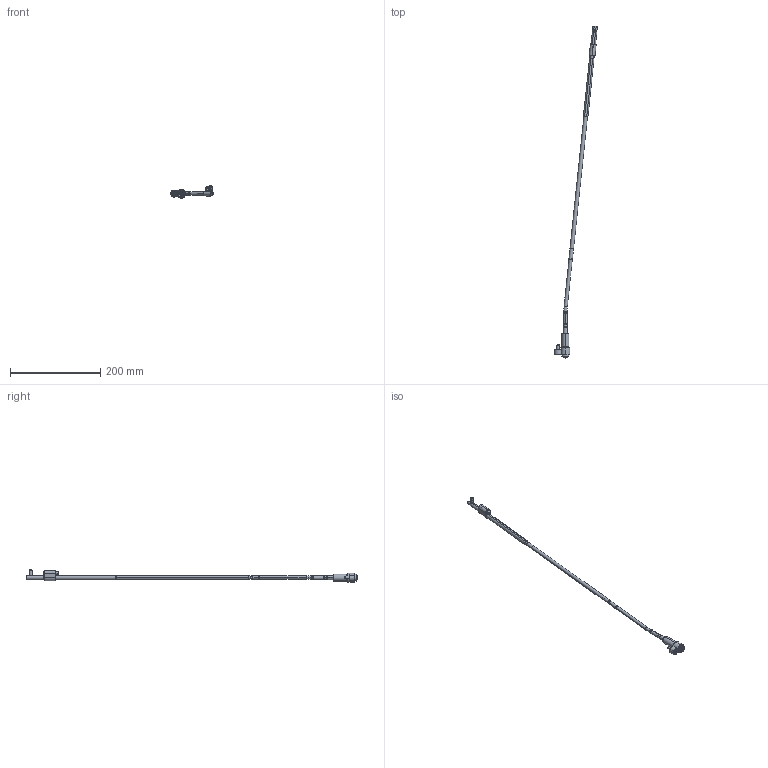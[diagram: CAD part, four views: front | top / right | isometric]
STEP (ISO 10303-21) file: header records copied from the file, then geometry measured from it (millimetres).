
FILE_DESCRIPTION (( 'STEP AP214' ), '1' );
FILE_NAME ('WL080100L-EJE 6°.STEP', '2021-03-19T15:25:31', ( '' ), ( '' ), 'SwSTEP 2.0', 'SolidWorks 2019', '' );
FILE_SCHEMA (( 'AUTOMOTIVE_DESIGN' ));
Length unit declared in the file: millimetre
Products named in the file (17): 1DIN912545_DIN 912 M5 x 50 --- 50C; WL080100-B_WL0800FF; Web-WL08XX-A7_ON-WL080100-6; Web-WL08-F01; WL080100L-EJE 6°; WL080100-C; Web-WL08-F00.SLDPRT; 9DR2206-TOR; Web-WL08-A3; Web-WL08-A2; Web-WL08-A1; WL080100-B1_WL0800FF-1; 3IMAN4X2-150_con sello; 1DIN912616_DIN 912 M6 x 16 --- 16C; Web-WP08-1; WL080100-D; WL080100-E
Assembly tree (16 placements, depth 3):
  WL080100L-EJE 6°
    Web-WP08-1
    Web-WL08XX-A7_ON-WL080100-6
    Web-WL08-A3
    Web-WL08-A2
    Web-WL08-A1
    WL080100-D
    WL080100-C
    WL080100-B_WL0800FF
      WL080100-B1_WL0800FF-1
      3IMAN4X2-150_con sello
    WL080100-E
    9DR2206-TOR
    Web-WL08-F00.SLDPRT
      Web-WL08-F01
      1DIN912545_DIN 912 M5 x 50 --- 50C
      1DIN912616_DIN 912 M6 x 16 --- 16C
Bounding box: 94.57 x 734.05 x 26.9 mm (x, y, z)
Volume: 57313.3 mm3; surface area: 33635.9 mm2
Topology: 15 solids, 15 shells, 424 faces, 888 edges, 516 vertices
Faces by surface type: plane 132, cylinder 128, cone 116, torus 48
Entity records: 13492 total; most frequent: DIRECTION 2218, CARTESIAN_POINT 2045, ORIENTED_EDGE 1756, AXIS2_PLACEMENT_3D 921, EDGE_CURVE 878, VERTEX_POINT 516, CIRCLE 476, EDGE_LOOP 468
